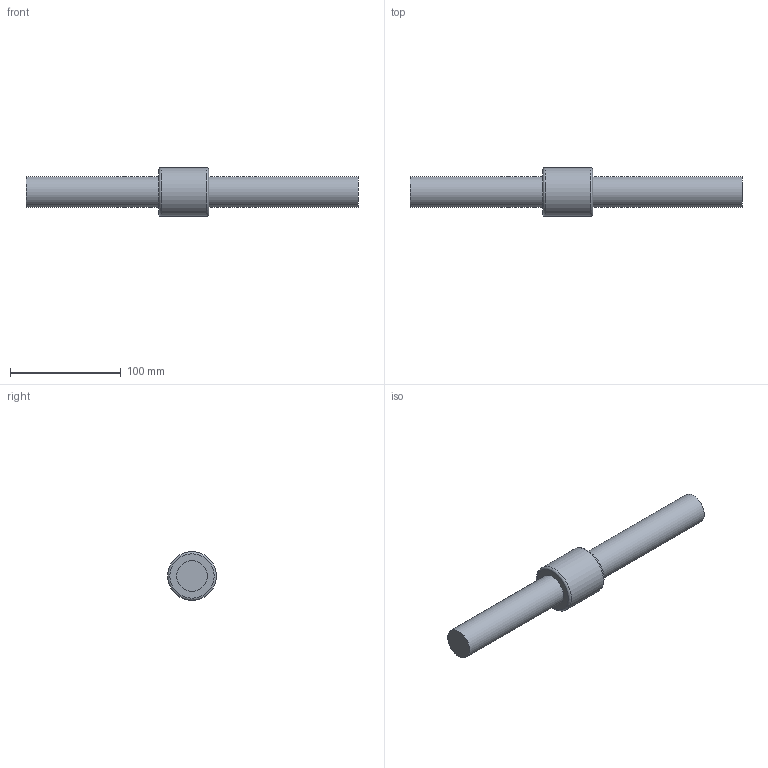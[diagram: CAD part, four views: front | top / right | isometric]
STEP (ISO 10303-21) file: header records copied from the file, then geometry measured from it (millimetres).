
FILE_DESCRIPTION((''),'2;1');
FILE_NAME('D:\製品 (図面)\カタログ用3D\ネジ関連\STEP形式\TMS\TMS28.stp','2010-06-02T15:33:20',('Tsuchiya'),(''),'Autodesk Inventor 10','Autodesk Inventor 10','');
FILE_SCHEMA(('AUTOMOTIVE_DESIGN { 1 0 10303 214 1 1 1 1 }'));
Length unit declared in the file: millimetre
Products named in the file (3): TMS28; TMS281; TMS282
Assembly tree (2 placements, depth 2):
  TMS28
    TMS281
    TMS282
Bounding box: 300 x 44 x 44 mm (x, y, z)
Volume: 225208.2 mm3; surface area: 39368.3 mm2
Topology: 2 solids, 2 shells, 9 faces, 13 edges, 8 vertices
Faces by surface type: plane 4, cylinder 3, torus 2
Full cylindrical faces by diameter (mm): 28 x2, 44 x1
Entity records: 254 total; most frequent: DIRECTION 44, CARTESIAN_POINT 30, AXIS2_PLACEMENT_3D 22, ORIENTED_EDGE 16, EDGE_LOOP 16, FACE_OUTER_BOUND 9, ADVANCED_FACE 9, VERTEX_POINT 8
